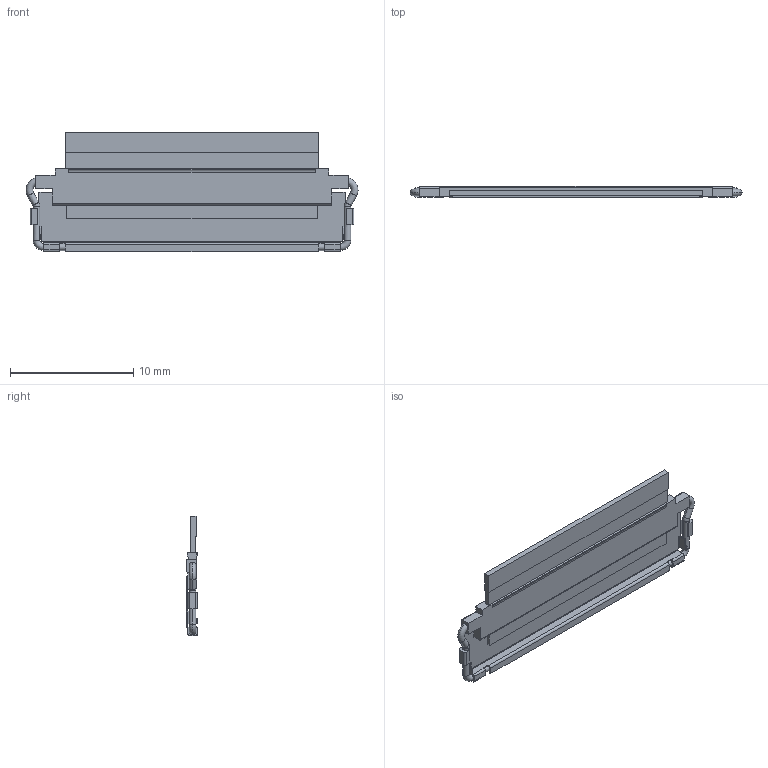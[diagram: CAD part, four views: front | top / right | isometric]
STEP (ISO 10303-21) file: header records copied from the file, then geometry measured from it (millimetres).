
FILE_DESCRIPTION (( 'STEP AP203' ), '1' );
FILE_NAME ('20856-050T-01 FPC ASS''Y STEP R3 ALL.STEP', '2022-11-04T01:17:48', ( '' ), ( '' ), 'SwSTEP 2.0', 'SolidWorks 2020', '' );
FILE_SCHEMA (( 'CONFIG_CONTROL_DESIGN' ));
Length unit declared in the file: millimetre
Products named in the file (1): 20856-050T-01 FPC ASS''Y STEP R3 ALL
Bounding box: 26.95 x 0.95 x 9.7 mm (x, y, z)
Volume: 109.2 mm3; surface area: 649.8 mm2
Topology: 1 solids, 1 shells, 605 faces, 1791 edges, 1181 vertices
Faces by surface type: plane 524, cylinder 69, torus 12
Entity records: 20044 total; most frequent: CARTESIAN_POINT 3632, ORIENTED_EDGE 3582, DIRECTION 3173, EDGE_CURVE 1791, LINE 1601, VECTOR 1601, VERTEX_POINT 1181, AXIS2_PLACEMENT_3D 786
